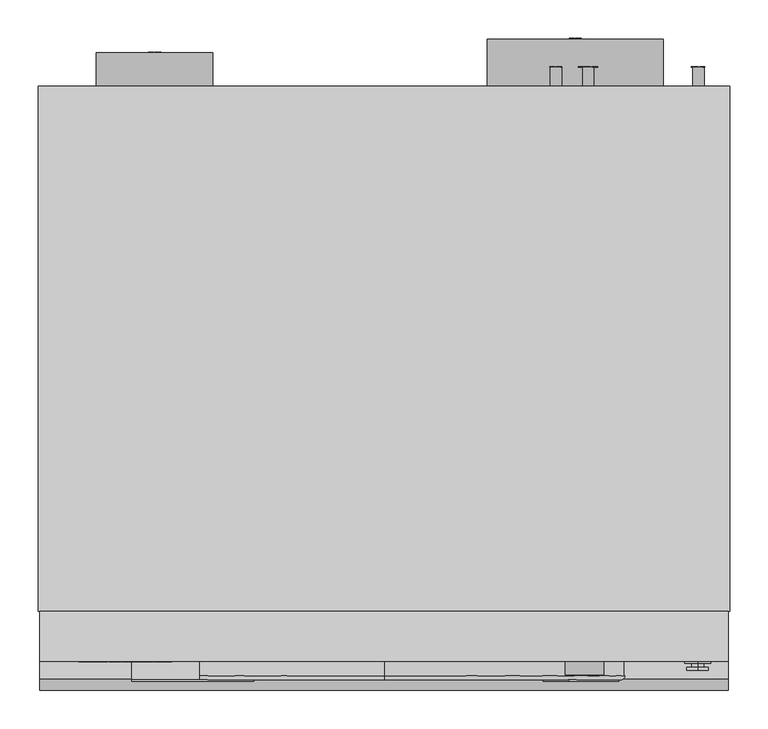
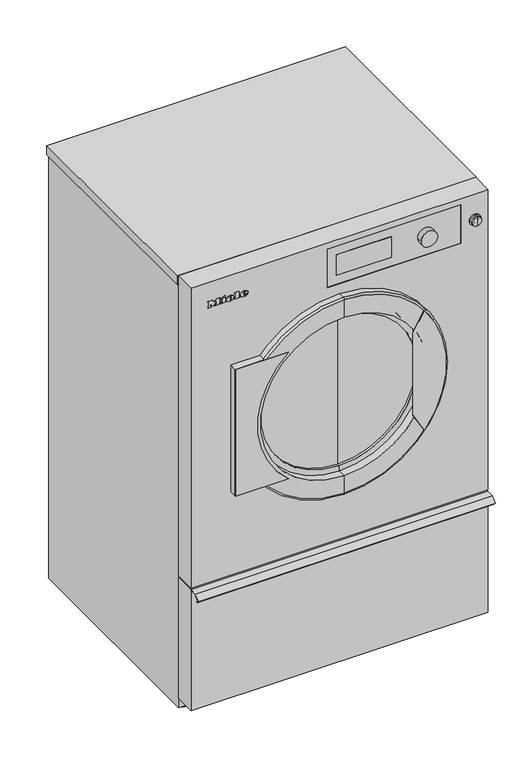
"""IFC4 building model written with IfcOpenShell, lengths in millimetres: proxy geometry, 11843380_SOM_PDR514ROPEL_IG : 52514011_SOM_11843380_PDR514ROPEL_IG."""

from ifc_helpers import new_model, si_unit, point, frame, frame_2d, origin, origin_with_axes, place, context, project, spatial, polyline, circle_curve, ellipse_curve, trimmed, segment, composite_curve, outline, extrude, faceted_brep, source, transform, mapped, element, save
from ifc_brep_helpers import plane_surface, cylinder_surface, revolved_surface, extruded_surface, advanced_brep


def specialty_equipment_eb223854(model_context):
    return source(origin(), model_context, "Body", "SolidModel", [
        advanced_brep(
        [(410.0, -814.0, 1302.0), (410.0, -814.0, 1336.0), (410.0, -814.0, 1319.0), (410.0, -817.0, 1302.0), (410.0, -817.0, 1336.0), (410.0, -817.0, 1311.0), (410.0, -817.0, 1327.0), (410.0, -822.0, 1311.0), (410.0, -822.0, 1327.0), (410.0, -822.0, 1305.0), (410.0, -822.0, 1333.0), (410.0, -826.0, 1305.0), (410.0, -826.0, 1333.0), (410.0, -826.0, 1319.0)],
        [
            (0, 1, circle_curve(frame((410.0, -814.0, 1319.0), z_axis=(0.0, 1.0, 0.0), x_axis=(0.0, 0.0, 1.0)), 17.0)),
            (1, 2),
            (2, 0),
            (1, 0, circle_curve(frame((410.0, -814.0, 1319.0), z_axis=(0.0, 1.0, 0.0), x_axis=(0.0, 0.0, 1.0)), 17.0)),
            (3, 4, circle_curve(frame((410.0, -817.0, 1319.0), z_axis=(0.0, 1.0, 0.0), x_axis=(0.0, 0.0, 1.0)), 17.0)),
            (4, 1),
            (0, 3),
            (4, 3, circle_curve(frame((410.0, -817.0, 1319.0), z_axis=(0.0, 1.0, 0.0), x_axis=(0.0, 0.0, 1.0)), 17.0)),
            (5, 6, circle_curve(frame((410.0, -817.0, 1319.0), z_axis=(0.0, 1.0, 0.0), x_axis=(0.0, 0.0, 1.0)), 8.0)),
            (6, 4),
            (3, 5),
            (6, 5, circle_curve(frame((410.0, -817.0, 1319.0), z_axis=(0.0, 1.0, 0.0), x_axis=(0.0, 0.0, 1.0)), 8.0)),
            (7, 8, circle_curve(frame((410.0, -822.0, 1319.0), z_axis=(0.0, 1.0, 0.0), x_axis=(0.0, 0.0, 1.0)), 8.0)),
            (8, 6),
            (5, 7),
            (8, 7, circle_curve(frame((410.0, -822.0, 1319.0), z_axis=(0.0, 1.0, 0.0), x_axis=(0.0, 0.0, 1.0)), 8.0)),
            (9, 10, circle_curve(frame((410.0, -822.0, 1319.0), z_axis=(0.0, 1.0, 0.0), x_axis=(0.0, 0.0, 1.0)), 14.0)),
            (10, 8),
            (7, 9),
            (10, 9, circle_curve(frame((410.0, -822.0, 1319.0), z_axis=(0.0, 1.0, 0.0), x_axis=(0.0, 0.0, 1.0)), 14.0)),
            (11, 12, circle_curve(frame((410.0, -826.0, 1319.0), z_axis=(0.0, 1.0, 0.0), x_axis=(0.0, 0.0, 1.0)), 14.0)),
            (12, 10),
            (9, 11),
            (12, 11, circle_curve(frame((410.0, -826.0, 1319.0), z_axis=(0.0, 1.0, 0.0), x_axis=(0.0, 0.0, 1.0)), 14.0)),
            (13, 12),
            (11, 13),
        ],
        [
            plane_surface(frame((410.0, -814.0, 1319.0), z_axis=(0.0, 1.0, 0.0), x_axis=(0.0, 0.0, 1.0))),
            cylinder_surface(frame((410.0, -814.0, 1319.0), z_axis=(0.0, -1.0, 0.0), x_axis=(0.0, 0.0, 1.0)), 17.0),
            plane_surface(frame((410.0, -817.0, 1319.0), z_axis=(0.0, -1.0, 0.0), x_axis=(0.0, 0.0, 1.0))),
            cylinder_surface(frame((410.0, -814.0, 1319.0), z_axis=(0.0, -1.0, 0.0), x_axis=(0.0, 0.0, 1.0)), 8.0),
            plane_surface(frame((410.0, -822.0, 1319.0), z_axis=(0.0, 1.0, 0.0), x_axis=(0.0, 0.0, 1.0))),
            cylinder_surface(frame((410.0, -814.0, 1319.0), z_axis=(0.0, -1.0, 0.0), x_axis=(0.0, 0.0, 1.0)), 14.0),
            plane_surface(frame((410.0, -826.0, 1319.0), z_axis=(0.0, -1.0, 0.0), x_axis=(0.0, 0.0, 1.0))),
        ],
        [
            (0, [[1, 2, 3]]),
            (0, [[4, -3, -2]]),
            (1, [[5, 6, -1, 7]]),
            (1, [[8, -7, -4, -6]]),
            (2, [[9, 10, -5, 11]]),
            (2, [[12, -11, -8, -10]]),
            (3, [[13, 14, -9, 15]]),
            (3, [[16, -15, -12, -14]]),
            (4, [[17, 18, -13, 19]]),
            (4, [[20, -19, -16, -18]]),
            (5, [[21, 22, -17, 23]]),
            (5, [[24, -23, -20, -22]]),
            (6, [[25, -21, 26]]),
            (6, [[-26, -24, -25]]),
        ],
    ),
        extrude(outline(composite_curve([segment(trimmed(circle_curve(frame_2d((1319.0, 262.0)), 25.0), [point((1319.0, 287.0))], [point((1319.0, 237.0))], False, "CARTESIAN"), True, "CONTINUOUS"), segment(trimmed(circle_curve(frame_2d((1319.0, 262.0)), 25.0), [point((1319.0, 237.0))], [point((1319.0, 287.0))], False, "CARTESIAN"), True, "CONTINUOUS")], self_intersect=False)), frame((0.0, -832.0, 0.0), z_axis=(0.0, 1.0, 0.0), x_axis=(0.0, 0.0, 1.0)), (0.0, 0.0, 1.0), 19.0),
        extrude(outline(polyline([(-9.0, -813.0), (157.0, -813.0), (157.0, -814.0), (-9.0, -814.0), (-9.0, -813.0)])), frame((0.0, 0.0, 1286.0), z_axis=(0.0, 0.0, 1.0), x_axis=(1.0, 0.0, 0.0)), (0.0, 0.0, 1.0), 66.0),
        extrude(outline(polyline([(-814.0, 435.0), (-814.0, 434.0), (-836.5857864, 434.0), (-850.6380903, 419.9476961), (-844.7136039, 413.0357953), (-845.4728605, 412.3850039), (-852.0, 420.0), (-837.0, 435.0), (-814.0, 435.0)])), frame((-450.0, 0.0, 0.0), z_axis=(1.0, 0.0, 0.0), x_axis=(0.0, 1.0, 0.0)), (0.0, 0.0, 1.0), 900.0),
        advanced_brep(
        [(450.0, -814.0, 1400.0), (-450.0, -814.0, 1400.0), (-450.0, -814.0, 440.0), (450.0, -814.0, 440.0), (283.0, -814.0, 910.0), (-283.0, -814.0, 910.0), (367.0, -814.0, 1380.0), (367.0, -814.0, 1257.0), (-37.0, -814.0, 1257.0), (-37.0, -814.0, 1380.0), (-450.0, -749.0, 1400.0), (450.0, -749.0, 1400.0), (450.0, -749.0, 440.0), (-450.0, -749.0, 440.0), (-283.0, -749.0, 910.0), (283.0, -749.0, 910.0), (367.0, -813.0, 1380.0), (-37.0, -813.0, 1380.0), (-37.0, -813.0, 1257.0), (367.0, -813.0, 1257.0)],
        [
            (0, 1),
            (1, 2),
            (2, 3),
            (3, 0),
            (4, 5, circle_curve(frame((0.0, -814.0, 910.0), z_axis=(0.0, 1.0, 0.0), x_axis=(-1.0, 0.0, 0.0)), 283.0)),
            (5, 4, circle_curve(frame((0.0, -814.0, 910.0), z_axis=(0.0, 1.0, 0.0), x_axis=(-1.0, 0.0, 0.0)), 283.0)),
            (6, 7),
            (7, 8),
            (8, 9),
            (9, 6),
            (10, 11),
            (11, 12),
            (12, 13),
            (13, 10),
            (14, 15, circle_curve(frame((0.0, -749.0, 910.0), z_axis=(0.0, -1.0, 0.0), x_axis=(-1.0, 0.0, 0.0)), 283.0)),
            (15, 14, circle_curve(frame((0.0, -749.0, 910.0), z_axis=(0.0, -1.0, 0.0), x_axis=(-1.0, 0.0, 0.0)), 283.0)),
            (11, 0),
            (3, 12),
            (1, 10),
            (13, 2),
            (14, 5),
            (4, 15),
            (16, 17),
            (17, 18),
            (18, 19),
            (19, 16),
            (19, 7),
            (6, 16),
            (18, 8),
            (17, 9),
        ],
        [
            plane_surface(frame((450.0, -814.0, 1400.0), z_axis=(0.0, -1.0, 0.0), x_axis=(0.0, 0.0, 1.0))),
            plane_surface(frame((450.0, -749.0, 1400.0), z_axis=(0.0, 1.0, 0.0), x_axis=(0.0, 0.0, -1.0))),
            plane_surface(frame((450.0, -749.0, 1400.0), z_axis=(1.0, 0.0, 0.0), x_axis=(0.0, -1.0, 0.0))),
            plane_surface(frame((-450.0, -749.0, 48.0), z_axis=(-1.0, 0.0, 0.0), x_axis=(0.0, -1.0, 0.0))),
            plane_surface(frame((-450.0, -749.0, 1400.0), z_axis=(0.0, 0.0, 1.0), x_axis=(0.0, -1.0, 0.0))),
            revolved_surface(polyline([(-283.0, -749.0, 910.0), (-283.0, -814.0, 910.0)]), (0.0, -814.0, 910.0), (0.0, 1.0, 0.0)),
            plane_surface(frame((-450.0, -749.0, 440.0), z_axis=(0.0, 0.0, -1.0), x_axis=(-1.0, 0.0, 0.0))),
            plane_surface(frame((157.0, -813.0, 1352.0), z_axis=(0.0, -1.0, 0.0), x_axis=(0.0, 0.0, -1.0))),
            plane_surface(frame((367.0, -813.0, 1380.0), z_axis=(-1.0, 0.0, 0.0), x_axis=(0.0, -1.0, 0.0))),
            plane_surface(frame((367.0, -813.0, 1257.0), z_axis=(0.0, 0.0, 1.0), x_axis=(0.0, -1.0, 0.0))),
            plane_surface(frame((-37.0, -813.0, 1257.0), z_axis=(1.0, 0.0, 0.0), x_axis=(0.0, -1.0, 0.0))),
            plane_surface(frame((-37.0, -813.0, 1380.0), z_axis=(0.0, 0.0, -1.0), x_axis=(0.0, -1.0, 0.0))),
        ],
        [
            (0, [[1, 2, 3, 4], [5, 6], [7, 8, 9, 10]]),
            (1, [[11, 12, 13, 14], [15, 16]]),
            (2, [[17, -4, 18, -12]]),
            (3, [[19, -14, 20, -2]]),
            (4, [[-1, -17, -11, -19]]),
            (5, [[21, -5, 22, -15]]),
            (5, [[-21, -16, -22, -6]]),
            (6, [[-3, -20, -13, -18]]),
            (7, [[23, 24, 25, 26]]),
            (8, [[-26, 27, -7, 28]]),
            (9, [[-25, 29, -8, -27]]),
            (10, [[-24, 30, -9, -29]]),
            (11, [[-23, -28, -10, -30]]),
        ],
    ),
        faceted_brep([(-450.0, -814.0, 48.0), (450.0, -814.0, 48.0), (450.0, -814.0, 435.0), (-450.0, -814.0, 435.0), (450.0, -749.0, 48.0), (-450.0, -749.0, 48.0), (-450.0, -749.0, 435.0), (450.0, -749.0, 435.0)], [[[0, 1, 2, 3]], [[4, 5, 6, 7]], [[1, 4, 7, 2]], [[1, 0, 5, 4]], [[5, 0, 3, 6]], [[3, 2, 7, 6]]]),
        advanced_brep(
        [(-290.6, -815.0, 1323.74), (-290.6, -815.0, 1325.76), (-277.22, -815.0, 1325.76), (-300.5, -815.0, 1325.76), (-295.0, -815.0, 1319.0), (-277.56, -815.0, 1323.74), (-283.6, -815.0, 1323.74), (-288.36, -815.0, 1321.5), (-290.6, -815.0, 1328.32), (-290.6, -815.0, 1330.5), (-287.18, -815.0, 1330.5), (-287.18, -815.0, 1328.32), (-290.6, -814.0, 1323.74), (-288.36, -814.0, 1321.5), (-283.6, -814.0, 1323.74), (-277.56, -814.0, 1323.74), (-295.0, -814.0, 1319.0), (-300.5, -814.0, 1325.76), (-277.22, -814.0, 1325.76), (-290.6, -814.0, 1325.76), (-290.6, -814.0, 1328.32), (-287.18, -814.0, 1328.32), (-287.18, -814.0, 1330.5), (-290.6, -814.0, 1330.5)],
        [
            (0, 1),
            (1, 2),
            (2, 3, ellipse_curve(frame((-288.86, -815.0, 1325.76), z_axis=(0.0, -1.0, 0.0), x_axis=(-1.0, 0.0, 0.0)), 11.64, 9.62)),
            (3, 4, circle_curve(frame((-292.7598909, -815.0, 1326.44), z_axis=(0.0, -1.0, 0.0), x_axis=(0.0, 0.0, -1.0)), 7.7699221)),
            (4, 5, circle_curve(frame((-289.0930161, -815.0, 1331.72), z_axis=(0.0, -1.0, 0.0), x_axis=(0.0, 0.0, -1.0)), 14.0246518)),
            (5, 6),
            (6, 7, circle_curve(frame((-287.3823529, -815.0, 1325.6), z_axis=(0.0, 1.0, 0.0), x_axis=(0.0, 0.0, -1.0)), 4.2149488)),
            (7, 0, circle_curve(frame((-288.36, -815.0, 1323.74), z_axis=(0.0, 1.0, 0.0), x_axis=(0.0, 0.0, -1.0)), 2.24)),
            (8, 9),
            (9, 10, circle_curve(frame((-288.89, -815.0, 1330.5), z_axis=(0.0, 1.0, 0.0), x_axis=(0.0, 0.0, -1.0)), 1.71)),
            (10, 11),
            (11, 8),
            (12, 13, circle_curve(frame((-288.36, -814.0, 1323.74), z_axis=(0.0, -1.0, 0.0), x_axis=(0.0, 0.0, -1.0)), 2.24)),
            (13, 14, circle_curve(frame((-287.3823529, -814.0, 1325.6), z_axis=(0.0, -1.0, 0.0), x_axis=(0.0, 0.0, -1.0)), 4.2149488)),
            (14, 15),
            (15, 16, circle_curve(frame((-289.0930161, -814.0, 1331.72), z_axis=(0.0, 1.0, 0.0), x_axis=(0.0, 0.0, -1.0)), 14.0246518)),
            (16, 17, circle_curve(frame((-292.7598909, -814.0, 1326.44), z_axis=(0.0, 1.0, 0.0), x_axis=(0.0, 0.0, -1.0)), 7.7699221)),
            (17, 18, ellipse_curve(frame((-288.86, -814.0, 1325.76), z_axis=(0.0, 1.0, 0.0), x_axis=(-1.0, 0.0, 0.0)), 11.64, 9.62)),
            (18, 19),
            (19, 12),
            (20, 21),
            (21, 22),
            (22, 23, circle_curve(frame((-288.89, -814.0, 1330.5), z_axis=(0.0, -1.0, 0.0), x_axis=(0.0, 0.0, -1.0)), 1.71)),
            (23, 20),
            (0, 12),
            (19, 1),
            (18, 2),
            (5, 15),
            (14, 6),
            (17, 3),
            (13, 7),
            (16, 4),
            (8, 20),
            (23, 9),
            (22, 10),
            (21, 11),
        ],
        [
            plane_surface(frame((-290.6, -815.0, 1325.76), z_axis=(0.0, -1.0, 0.0), x_axis=(0.0, 0.0, 1.0))),
            plane_surface(frame((-290.6, -814.0, 1325.76), z_axis=(0.0, 1.0, 0.0), x_axis=(0.0, 0.0, -1.0))),
            plane_surface(frame((-290.6, -815.0, 1323.74), z_axis=(1.0, 0.0, 0.0), x_axis=(0.0, 1.0, 0.0))),
            plane_surface(frame((-290.6, -815.0, 1325.76), z_axis=(0.0, 0.0, -1.0), x_axis=(0.0, 1.0, 0.0))),
            plane_surface(frame((-277.56, -815.0, 1323.74), z_axis=(0.0, 0.0, 1.0), x_axis=(0.0, 1.0, 0.0))),
            extruded_surface(trimmed(ellipse_curve(frame((-288.86, -813.0, 1325.76), z_axis=(0.0, -1.0, 0.0), x_axis=(-1.0, 0.0, 0.0)), 11.64, 9.62), [point((-277.22, -813.0, 1325.76))], [point((-300.5, -813.0, 1325.76))], True, "CARTESIAN"), (0.0, -1.0, 0.0), 1.0),
            revolved_surface(polyline([(-287.3823529, -814.0, 1321.3850512), (-287.3823529, -815.0, 1321.3850512)]), (-287.3823529, -814.0, 1325.6), (0.0, 1.0, 0.0)),
            revolved_surface(polyline([(-288.36, -814.0, 1321.5), (-288.36, -815.0, 1321.5)]), (-288.36, -814.0, 1323.74), (0.0, 1.0, 0.0)),
            cylinder_surface(frame((-292.7598909, -814.0, 1326.44), z_axis=(0.0, -1.0, 0.0), x_axis=(0.0, 0.0, -1.0)), 7.7699221),
            cylinder_surface(frame((-289.0930161, -814.0, 1331.72), z_axis=(0.0, -1.0, 0.0), x_axis=(0.0, 0.0, -1.0)), 14.0246518),
            plane_surface(frame((-290.6, -815.0, 1328.32), z_axis=(1.0, 0.0, 0.0), x_axis=(0.0, 1.0, 0.0))),
            revolved_surface(polyline([(-288.89, -814.0, 1328.79), (-288.89, -815.0, 1328.79)]), (-288.89, -814.0, 1330.5), (0.0, 1.0, 0.0)),
            plane_surface(frame((-287.18, -815.0, 1330.5), z_axis=(-1.0, 0.0, 0.0), x_axis=(0.0, 1.0, 0.0))),
            plane_surface(frame((-287.18, -815.0, 1328.32), z_axis=(0.0, 0.0, 1.0), x_axis=(0.0, 1.0, 0.0))),
        ],
        [
            (0, [[1, 2, 3, 4, 5, 6, 7, 8], [9, 10, 11, 12]]),
            (1, [[13, 14, 15, 16, 17, 18, 19, 20], [21, 22, 23, 24]]),
            (2, [[-1, 25, -20, 26]]),
            (3, [[-2, -26, -19, 27]]),
            (4, [[-6, 28, -15, 29]]),
            (5, [[-3, -27, -18, 30]]),
            (6, [[-7, -29, -14, 31]]),
            (7, [[-8, -31, -13, -25]]),
            (8, [[-4, -30, -17, 32]]),
            (9, [[-5, -32, -16, -28]]),
            (10, [[-9, 33, -24, 34]]),
            (11, [[-10, -34, -23, 35]]),
            (12, [[-11, -35, -22, 36]]),
            (13, [[-12, -36, -21, -33]]),
        ],
    ),
        advanced_brep(
        [(-332.34, -815.0, 1323.74), (-332.34, -815.0, 1325.76), (-318.96, -815.0, 1325.76), (-342.24, -815.0, 1325.76), (-336.74, -815.0, 1319.0), (-319.3, -815.0, 1323.74), (-325.34, -815.0, 1323.74), (-330.1, -815.0, 1321.5), (-332.34, -815.0, 1328.32), (-332.34, -815.0, 1330.5), (-328.92, -815.0, 1330.5), (-328.92, -815.0, 1328.32), (-332.34, -814.0, 1323.74), (-330.1, -814.0, 1321.5), (-325.34, -814.0, 1323.74), (-319.3, -814.0, 1323.74), (-336.74, -814.0, 1319.0), (-342.24, -814.0, 1325.76), (-318.96, -814.0, 1325.76), (-332.34, -814.0, 1325.76), (-332.34, -814.0, 1328.32), (-328.92, -814.0, 1328.32), (-328.92, -814.0, 1330.5), (-332.34, -814.0, 1330.5)],
        [
            (0, 1),
            (1, 2),
            (2, 3, ellipse_curve(frame((-330.6, -815.0, 1325.76), z_axis=(0.0, -1.0, 0.0), x_axis=(-1.0, 0.0, 0.0)), 11.64, 9.62)),
            (3, 4, circle_curve(frame((-334.4998909, -815.0, 1326.44), z_axis=(0.0, -1.0, 0.0), x_axis=(0.0, 0.0, -1.0)), 7.7699221)),
            (4, 5, circle_curve(frame((-330.8330161, -815.0, 1331.72), z_axis=(0.0, -1.0, 0.0), x_axis=(0.0, 0.0, -1.0)), 14.0246518)),
            (5, 6),
            (6, 7, circle_curve(frame((-329.1223529, -815.0, 1325.6), z_axis=(0.0, 1.0, 0.0), x_axis=(0.0, 0.0, -1.0)), 4.2149488)),
            (7, 0, circle_curve(frame((-330.1, -815.0, 1323.74), z_axis=(0.0, 1.0, 0.0), x_axis=(0.0, 0.0, -1.0)), 2.24)),
            (8, 9),
            (9, 10, circle_curve(frame((-330.63, -815.0, 1330.5), z_axis=(0.0, 1.0, 0.0), x_axis=(0.0, 0.0, -1.0)), 1.71)),
            (10, 11),
            (11, 8),
            (12, 13, circle_curve(frame((-330.1, -814.0, 1323.74), z_axis=(0.0, -1.0, 0.0), x_axis=(0.0, 0.0, -1.0)), 2.24)),
            (13, 14, circle_curve(frame((-329.1223529, -814.0, 1325.6), z_axis=(0.0, -1.0, 0.0), x_axis=(0.0, 0.0, -1.0)), 4.2149488)),
            (14, 15),
            (15, 16, circle_curve(frame((-330.8330161, -814.0, 1331.72), z_axis=(0.0, 1.0, 0.0), x_axis=(0.0, 0.0, -1.0)), 14.0246518)),
            (16, 17, circle_curve(frame((-334.4998909, -814.0, 1326.44), z_axis=(0.0, 1.0, 0.0), x_axis=(0.0, 0.0, -1.0)), 7.7699221)),
            (17, 18, ellipse_curve(frame((-330.6, -814.0, 1325.76), z_axis=(0.0, 1.0, 0.0), x_axis=(-1.0, 0.0, 0.0)), 11.64, 9.62)),
            (18, 19),
            (19, 12),
            (20, 21),
            (21, 22),
            (22, 23, circle_curve(frame((-330.63, -814.0, 1330.5), z_axis=(0.0, -1.0, 0.0), x_axis=(0.0, 0.0, -1.0)), 1.71)),
            (23, 20),
            (0, 12),
            (19, 1),
            (18, 2),
            (5, 15),
            (14, 6),
            (17, 3),
            (13, 7),
            (16, 4),
            (8, 20),
            (23, 9),
            (22, 10),
            (21, 11),
        ],
        [
            plane_surface(frame((-332.34, -815.0, 1325.76), z_axis=(0.0, -1.0, 0.0), x_axis=(0.0, 0.0, 1.0))),
            plane_surface(frame((-332.34, -814.0, 1325.76), z_axis=(0.0, 1.0, 0.0), x_axis=(0.0, 0.0, -1.0))),
            plane_surface(frame((-332.34, -815.0, 1323.74), z_axis=(1.0, 0.0, 0.0), x_axis=(0.0, 1.0, 0.0))),
            plane_surface(frame((-332.34, -815.0, 1325.76), z_axis=(0.0, 0.0, -1.0), x_axis=(0.0, 1.0, 0.0))),
            plane_surface(frame((-319.3, -815.0, 1323.74), z_axis=(0.0, 0.0, 1.0), x_axis=(0.0, 1.0, 0.0))),
            extruded_surface(trimmed(ellipse_curve(frame((-330.6, -813.0, 1325.76), z_axis=(0.0, -1.0, 0.0), x_axis=(-1.0, 0.0, 0.0)), 11.64, 9.62), [point((-318.96, -813.0, 1325.76))], [point((-342.24, -813.0, 1325.76))], True, "CARTESIAN"), (0.0, -1.0, 0.0), 1.0),
            revolved_surface(polyline([(-329.1223529, -814.0, 1321.3850512), (-329.1223529, -815.0, 1321.3850512)]), (-329.1223529, -814.0, 1325.6), (0.0, 1.0, 0.0)),
            revolved_surface(polyline([(-330.1, -814.0, 1321.5), (-330.1, -815.0, 1321.5)]), (-330.1, -814.0, 1323.74), (0.0, 1.0, 0.0)),
            cylinder_surface(frame((-334.4998909, -814.0, 1326.44), z_axis=(0.0, -1.0, 0.0), x_axis=(0.0, 0.0, -1.0)), 7.7699221),
            cylinder_surface(frame((-330.8330161, -814.0, 1331.72), z_axis=(0.0, -1.0, 0.0), x_axis=(0.0, 0.0, -1.0)), 14.0246518),
            plane_surface(frame((-332.34, -815.0, 1328.32), z_axis=(1.0, 0.0, 0.0), x_axis=(0.0, 1.0, 0.0))),
            revolved_surface(polyline([(-330.63, -814.0, 1328.79), (-330.63, -815.0, 1328.79)]), (-330.63, -814.0, 1330.5), (0.0, 1.0, 0.0)),
            plane_surface(frame((-328.92, -815.0, 1330.5), z_axis=(-1.0, 0.0, 0.0), x_axis=(0.0, 1.0, 0.0))),
            plane_surface(frame((-328.92, -815.0, 1328.32), z_axis=(0.0, 0.0, 1.0), x_axis=(0.0, 1.0, 0.0))),
        ],
        [
            (0, [[1, 2, 3, 4, 5, 6, 7, 8], [9, 10, 11, 12]]),
            (1, [[13, 14, 15, 16, 17, 18, 19, 20], [21, 22, 23, 24]]),
            (2, [[-1, 25, -20, 26]]),
            (3, [[-2, -26, -19, 27]]),
            (4, [[-6, 28, -15, 29]]),
            (5, [[-3, -27, -18, 30]]),
            (6, [[-7, -29, -14, 31]]),
            (7, [[-8, -31, -13, -25]]),
            (8, [[-4, -30, -17, 32]]),
            (9, [[-5, -32, -16, -28]]),
            (10, [[-9, 33, -24, 34]]),
            (11, [[-10, -34, -23, 35]]),
            (12, [[-11, -35, -22, 36]]),
            (13, [[-12, -36, -21, -33]]),
        ],
    ),
        extrude(outline(polyline([(1337.82, -354.2), (1334.58, -352.68), (1337.74, -345.9), (1340.98, -347.4), (1337.82, -354.2)])), frame((0.0, -815.0, 0.0), z_axis=(0.0, 1.0, 0.0), x_axis=(0.0, 0.0, 1.0)), (0.0, 0.0, 1.0), 1.0),
        extrude(outline(polyline([(1334.14, -359.14), (1330.56, -359.14), (1330.56, -356.76), (1322.36, -356.76), (1322.36, -359.14), (1319.0, -359.14), (1319.0, -343.36), (1322.36, -343.36), (1322.36, -345.68), (1334.14, -345.68), (1334.14, -359.14)])), frame((0.0, -815.0, 0.0), z_axis=(0.0, 1.0, 0.0), x_axis=(0.0, 0.0, 1.0)), (0.0, 0.0, 1.0), 1.0),
        extrude(outline(polyline([(1335.74, -317.84), (1335.74, -315.44), (1322.36, -315.44), (1322.36, -317.84), (1319.0, -317.84), (1319.0, -301.62), (1322.36, -301.62), (1322.36, -304.08), (1339.0, -304.08), (1339.0, -317.84), (1335.74, -317.84)])), frame((0.0, -815.0, 0.0), z_axis=(0.0, 1.0, 0.0), x_axis=(0.0, 0.0, 1.0)), (0.0, 0.0, 1.0), 1.0),
        extrude(outline(polyline([(1335.74, -399.0), (1335.74, -396.58), (1322.36, -396.58), (1322.36, -399.0), (1319.0, -399.0), (1319.0, -390.2), (1322.36, -390.2), (1322.36, -392.6), (1330.7911247, -392.6), (1319.0, -383.66), (1331.3152223, -374.68), (1322.36, -374.68), (1322.36, -377.14), (1319.0, -377.14), (1319.0, -361.18), (1322.36, -361.18), (1322.36, -363.72), (1335.74, -363.72), (1335.74, -361.18), (1339.0, -361.18), (1339.0, -373.36), (1331.5, -379.2), (1339.0, -385.06), (1339.0, -399.0), (1335.74, -399.0)])), frame((0.0, -815.0, 0.0), z_axis=(0.0, 1.0, 0.0), x_axis=(0.0, 0.0, 1.0)), (0.0, 0.0, 1.0), 1.0),
        extrude(outline(composite_curve([segment(polyline([(1112.0, -169.976469), (1112.0, -330.0), (708.0, -330.0), (708.0, -169.976469)]), True, "CONTINUOUS"), segment(trimmed(circle_curve(frame_2d((910.0, 0.0)), 264.0), [point((708.0, -169.976469))], [point((1112.0, -169.976469))], True, "CARTESIAN"), True, "CONTINUOUS")], self_intersect=False)), frame((0.0, -840.0, 0.0), z_axis=(0.0, 1.0, 0.0), x_axis=(0.0, 0.0, 1.0)), (0.0, 0.0, 1.0), 2.0),
        extrude(outline(composite_curve([segment(trimmed(circle_curve(frame_2d((910.0, 0.0)), 308.0), [point((719.0, 241.6257437))], [point((1101.0, 241.6257437))], False, "CARTESIAN"), True, "CONTINUOUS"), segment(polyline([(1101.0, 241.6257437), (1042.7585035, 208.0), (777.2414965, 208.0), (719.0, 241.6257437)]), True, "CONTINUOUS")], self_intersect=False)), frame((0.0, -840.0, 0.0), z_axis=(0.0, 1.0, 0.0), x_axis=(0.0, 0.0, 1.0)), (0.0, 0.0, 1.0), 2.0),
        extrude(outline(composite_curve([segment(polyline([(708.0, -330.0), (708.0, -241.7043649)]), True, "CONTINUOUS"), segment(trimmed(circle_curve(frame_2d((910.0, 0.0)), 315.0), [point((708.0, -241.7043649))], [point((1112.0, -241.7043649))], True, "CARTESIAN"), True, "CONTINUOUS"), segment(polyline([(1112.0, -241.7043649), (1112.0, -330.0), (708.0, -330.0)]), True, "CONTINUOUS")], self_intersect=False)), frame((0.0, -838.0, 0.0), z_axis=(0.0, 1.0, 0.0), x_axis=(0.0, 0.0, 1.0)), (0.0, 0.0, 1.0), 24.0),
        advanced_brep(
        [(0.0, -812.0, 656.0), (0.0, -812.0, 1164.0), (0.0, -804.0, 1164.0), (0.0, -804.0, 656.0), (0.0, -812.0, 673.0), (0.0, -812.0, 1147.0), (0.0, -804.0, 673.0), (0.0, -804.0, 1147.0)],
        [
            (0, 1, circle_curve(frame((0.0, -812.0, 910.0), z_axis=(0.0, 1.0, 0.0), x_axis=(0.0, 0.0, 1.0)), 254.0)),
            (1, 2),
            (2, 3, circle_curve(frame((0.0, -804.0, 910.0), z_axis=(0.0, -1.0, 0.0), x_axis=(0.0, 0.0, 1.0)), 254.0)),
            (3, 0),
            (1, 0, circle_curve(frame((0.0, -812.0, 910.0), z_axis=(0.0, 1.0, 0.0), x_axis=(0.0, 0.0, 1.0)), 254.0)),
            (3, 2, circle_curve(frame((0.0, -804.0, 910.0), z_axis=(0.0, -1.0, 0.0), x_axis=(0.0, 0.0, 1.0)), 254.0)),
            (4, 5, circle_curve(frame((0.0, -812.0, 910.0), z_axis=(0.0, 1.0, 0.0), x_axis=(0.0, 0.0, 1.0)), 237.0)),
            (5, 1),
            (0, 4),
            (5, 4, circle_curve(frame((0.0, -812.0, 910.0), z_axis=(0.0, 1.0, 0.0), x_axis=(0.0, 0.0, 1.0)), 237.0)),
            (6, 7, circle_curve(frame((0.0, -804.0, 910.0), z_axis=(0.0, 1.0, 0.0), x_axis=(0.0, 0.0, 1.0)), 237.0)),
            (7, 5),
            (4, 6),
            (7, 6, circle_curve(frame((0.0, -804.0, 910.0), z_axis=(0.0, 1.0, 0.0), x_axis=(0.0, 0.0, 1.0)), 237.0)),
            (2, 7),
            (6, 3),
        ],
        [
            cylinder_surface(frame((0.0, -2242.7556811, 910.0), z_axis=(0.0, -1.0, 0.0), x_axis=(0.0, 0.0, 1.0)), 254.0),
            plane_surface(frame((0.0, -812.0, 910.0), z_axis=(0.0, -1.0, 0.0), x_axis=(0.0, 0.0, 1.0))),
            revolved_surface(polyline([(0.0, -812.0, 1147.0), (0.0, -804.0, 1147.0)]), (0.0, -2242.7556811, 910.0), (0.0, -1.0, 0.0)),
            plane_surface(frame((0.0, -804.0, 910.0), z_axis=(0.0, 1.0, 0.0), x_axis=(0.0, 0.0, 1.0))),
        ],
        [
            (0, [[1, 2, 3, 4]]),
            (0, [[5, -4, 6, -2]]),
            (1, [[7, 8, -1, 9]]),
            (1, [[10, -9, -5, -8]]),
            (2, [[11, 12, -7, 13]]),
            (2, [[14, -13, -10, -12]]),
            (3, [[-3, 15, -11, 16]]),
            (3, [[-6, -16, -14, -15]]),
        ],
    ),
        advanced_brep(
        [(0.0, -804.0, 910.0), (0.0, -804.0, 1164.0), (0.0, -804.0, 656.0), (0.0, -784.0, 656.0), (0.0, -784.0, 1164.0), (0.0, -784.0, 910.0)],
        [
            (0, 1),
            (1, 2, circle_curve(frame((0.0, -804.0, 910.0), z_axis=(0.0, -1.0, 0.0), x_axis=(0.0, 0.0, 1.0)), 254.0)),
            (2, 0),
            (2, 1, circle_curve(frame((0.0, -804.0, 910.0), z_axis=(0.0, -1.0, 0.0), x_axis=(0.0, 0.0, 1.0)), 254.0)),
            (3, 4, circle_curve(frame((0.0, -784.0, 910.0), z_axis=(0.0, 1.0, 0.0), x_axis=(0.0, 0.0, 1.0)), 254.0)),
            (4, 5),
            (5, 3),
            (4, 3, circle_curve(frame((0.0, -784.0, 910.0), z_axis=(0.0, 1.0, 0.0), x_axis=(0.0, 0.0, 1.0)), 254.0)),
            (1, 4),
            (3, 2),
        ],
        [
            plane_surface(frame((0.0, -804.0, 910.0), z_axis=(0.0, -1.0, 0.0), x_axis=(0.0, 0.0, 1.0))),
            plane_surface(frame((0.0, -784.0, 910.0), z_axis=(0.0, 1.0, 0.0), x_axis=(0.0, 0.0, 1.0))),
            cylinder_surface(frame((0.0, -2242.7556811, 910.0), z_axis=(0.0, -1.0, 0.0), x_axis=(0.0, 0.0, 1.0)), 254.0),
        ],
        [
            (0, [[1, 2, 3]]),
            (0, [[-3, 4, -1]]),
            (1, [[5, 6, 7]]),
            (1, [[8, -7, -6]]),
            (2, [[-2, 9, -5, 10]]),
            (2, [[-4, -10, -8, -9]]),
        ],
    ),
        advanced_brep(
        [(0.0, -833.0, 595.0), (0.0, -833.0, 1225.0), (0.0, -814.0, 1225.0), (0.0, -814.0, 595.0), (0.0, -838.0, 600.0), (0.0, -838.0, 1220.0), (0.0, -838.0, 656.0), (0.0, -838.0, 1164.0), (0.0, -784.0, 656.0), (0.0, -784.0, 1164.0), (0.0, -784.0, 640.9892297), (0.0, -784.0, 1179.0107703), (0.0, -814.0, 627.0), (0.0, -814.0, 1193.0)],
        [
            (0, 1, circle_curve(frame((0.0, -833.0, 910.0), z_axis=(0.0, 1.0, 0.0), x_axis=(0.0, 0.0, 1.0)), 315.0)),
            (1, 2),
            (2, 3, circle_curve(frame((0.0, -814.0, 910.0), z_axis=(0.0, -1.0, 0.0), x_axis=(0.0, 0.0, 1.0)), 315.0)),
            (3, 0),
            (1, 0, circle_curve(frame((0.0, -833.0, 910.0), z_axis=(0.0, 1.0, 0.0), x_axis=(0.0, 0.0, 1.0)), 315.0)),
            (3, 2, circle_curve(frame((0.0, -814.0, 910.0), z_axis=(0.0, -1.0, 0.0), x_axis=(0.0, 0.0, 1.0)), 315.0)),
            (4, 5, circle_curve(frame((0.0, -838.0, 910.0), z_axis=(0.0, 1.0, 0.0), x_axis=(0.0, 0.0, 1.0)), 310.0)),
            (5, 1, circle_curve(frame((0.0, -833.0, 1220.0), z_axis=(-1.0, 0.0, 0.0), x_axis=(0.0, 1.0, 0.0)), 5.0)),
            (0, 4, circle_curve(frame((0.0, -833.0, 600.0), z_axis=(-1.0, 0.0, 0.0), x_axis=(0.0, 1.0, 0.0)), 5.0)),
            (5, 4, circle_curve(frame((0.0, -838.0, 910.0), z_axis=(0.0, 1.0, 0.0), x_axis=(0.0, 0.0, 1.0)), 310.0)),
            (6, 7, circle_curve(frame((0.0, -838.0, 910.0), z_axis=(0.0, 1.0, 0.0), x_axis=(0.0, 0.0, 1.0)), 254.0)),
            (7, 5),
            (4, 6),
            (7, 6, circle_curve(frame((0.0, -838.0, 910.0), z_axis=(0.0, 1.0, 0.0), x_axis=(0.0, 0.0, 1.0)), 254.0)),
            (8, 9, circle_curve(frame((0.0, -784.0, 910.0), z_axis=(0.0, 1.0, 0.0), x_axis=(0.0, 0.0, 1.0)), 254.0)),
            (9, 7),
            (6, 8),
            (9, 8, circle_curve(frame((0.0, -784.0, 910.0), z_axis=(0.0, 1.0, 0.0), x_axis=(0.0, 0.0, 1.0)), 254.0)),
            (10, 11, circle_curve(frame((0.0, -784.0, 910.0), z_axis=(0.0, 1.0, 0.0), x_axis=(0.0, 0.0, 1.0)), 269.0107703)),
            (11, 9),
            (8, 10),
            (11, 10, circle_curve(frame((0.0, -784.0, 910.0), z_axis=(0.0, 1.0, 0.0), x_axis=(0.0, 0.0, 1.0)), 269.0107703)),
            (12, 13, circle_curve(frame((0.0, -814.0, 910.0), z_axis=(0.0, 1.0, 0.0), x_axis=(0.0, 0.0, 1.0)), 283.0)),
            (13, 11),
            (10, 12),
            (13, 12, circle_curve(frame((0.0, -814.0, 910.0), z_axis=(0.0, 1.0, 0.0), x_axis=(0.0, 0.0, 1.0)), 283.0)),
            (2, 13),
            (12, 3),
        ],
        [
            cylinder_surface(frame((0.0, -2187.7556811, 910.0), z_axis=(0.0, -1.0, 0.0), x_axis=(0.0, 0.0, 1.0)), 315.0),
            revolved_surface(trimmed(ellipse_curve(frame((0.0, -833.0, 1220.0), z_axis=(1.0, 0.0, 0.0), x_axis=(0.0, 1.0, 0.0)), 5.0, 5.0), [point((0.0, -833.0, 1225.0))], [point((0.0, -838.0, 1220.0))], True, "CARTESIAN"), (0.0, -2187.7556811, 910.0), (0.0, -1.0, 0.0)),
            plane_surface(frame((0.0, -838.0, 910.0), z_axis=(0.0, -1.0, 0.0), x_axis=(0.0, 0.0, 1.0))),
            revolved_surface(polyline([(0.0, -838.0, 1164.0), (0.0, -784.0, 1164.0)]), (0.0, -2187.7556811, 910.0), (0.0, -1.0, 0.0)),
            plane_surface(frame((0.0, -784.0, 910.0), z_axis=(0.0, 1.0, 0.0), x_axis=(0.0, 0.0, 1.0))),
            revolved_surface(polyline([(0.0, -784.0, 1179.0107703), (0.0, -814.0, 1193.0)]), (0.0, -2187.7556811, 910.0), (0.0, -1.0, 0.0)),
            plane_surface(frame((0.0, -814.0, 910.0), z_axis=(0.0, 1.0, 0.0), x_axis=(0.0, 0.0, 1.0))),
        ],
        [
            (0, [[1, 2, 3, 4]]),
            (0, [[5, -4, 6, -2]]),
            (1, [[7, 8, -1, 9]]),
            (1, [[10, -9, -5, -8]]),
            (2, [[11, 12, -7, 13]]),
            (2, [[14, -13, -10, -12]]),
            (3, [[15, 16, -11, 17]]),
            (3, [[18, -17, -14, -16]]),
            (4, [[19, 20, -15, 21]]),
            (4, [[22, -21, -18, -20]]),
            (5, [[23, 24, -19, 25]]),
            (5, [[26, -25, -22, -24]]),
            (6, [[-3, 27, -23, 28]]),
            (6, [[-6, -28, -26, -27]]),
        ],
    ),
        extrude(outline(composite_curve([segment(trimmed(circle_curve(frame_2d((1341.0, 225.0)), 7.5), [point((1341.0, 232.5))], [point((1341.0, 217.5))], False, "CARTESIAN"), True, "CONTINUOUS"), segment(trimmed(circle_curve(frame_2d((1341.0, 225.0)), 7.5), [point((1341.0, 217.5))], [point((1341.0, 232.5))], False, "CARTESIAN"), True, "CONTINUOUS")], self_intersect=False)), frame((0.0, -67.0, 0.0), z_axis=(0.0, 1.0, 0.0), x_axis=(0.0, 0.0, 1.0)), (0.0, 0.0, 1.0), 30.0),
        extrude(outline(composite_curve([segment(polyline([(30.0, 417.9170113), (30.0, 419.1620921), (40.0559489, 419.1620921), (40.0559489, 415.453394)]), True, "CONTINUOUS"), segment(trimmed(circle_curve(frame_2d((37.0741886, 415.453394)), 2.9817603), [point((40.0559489, 415.453394))], [point((34.0924283, 415.453394))], False, "CARTESIAN"), True, "CONTINUOUS"), segment(polyline([(34.0924283, 415.453394), (34.0924283, 417.9170113), (30.0, 417.9170113)]), True, "CONTINUOUS")], self_intersect=False), holes=[composite_curve([segment(polyline([(35.2383237, 417.9170113), (35.2383237, 415.0679492)]), True, "CONTINUOUS"), segment(trimmed(circle_curve(frame_2d((37.0536399, 415.0679492)), 1.8153163), [point((35.2383237, 415.0679492))], [point((38.8689562, 415.0679492))], True, "CARTESIAN"), True, "CONTINUOUS"), segment(polyline([(38.8689562, 415.0679492), (38.8689562, 417.9170113), (35.2383237, 417.9170113)]), True, "CONTINUOUS")], self_intersect=False)]), frame((0.0, -37.0, 0.0), z_axis=(0.0, 1.0, 0.0), x_axis=(0.0, 0.0, 1.0)), (0.0, 0.0, 1.0), 1.0),
        extrude(outline(polyline([(40.0480947, 407.0745188), (40.0480947, 405.9891006), (30.0, 401.9827579), (30.0, 403.3125422), (33.1377792, 404.4546004), (33.1377792, 408.5944446), (30.0, 409.7365028), (30.0, 411.0811065), (40.0480947, 407.0745188)]), holes=[polyline([(34.3904393, 408.127462), (34.3904393, 404.9161749), (38.8019088, 406.5218184), (34.3904393, 408.127462)])]), frame((0.0, -37.0, 0.0), z_axis=(0.0, 1.0, 0.0), x_axis=(0.0, 0.0, 1.0)), (0.0, 0.0, 1.0), 1.0),
        extrude(outline(composite_curve([segment(trimmed(circle_curve(frame_2d((35.0, 411.0)), 7.5), [point((35.0, 418.5))], [point((35.0, 403.5))], False, "CARTESIAN"), True, "CONTINUOUS"), segment(trimmed(circle_curve(frame_2d((35.0, 411.0)), 7.5), [point((35.0, 403.5))], [point((35.0, 418.5))], False, "CARTESIAN"), True, "CONTINUOUS")], self_intersect=False)), frame((0.0, -67.0, 0.0), z_axis=(0.0, 1.0, 0.0), x_axis=(0.0, 0.0, 1.0)), (0.0, 0.0, 1.0), 30.0),
        extrude(outline(polyline([(1156.5, 257.0), (1156.5, 285.0), (1181.5, 271.0), (1156.5, 257.0)]), holes=[polyline([(1173.5, 270.2030882), (1173.5, 271.6042015), (1165.5, 275.0), (1167.4089025, 270.7125348), (1161.6312546, 271.5245303), (1161.6312546, 272.7258559), (1159.5, 271.0), (1161.6312546, 268.8687454), (1161.6312546, 270.10588), (1169.5, 269.0), (1167.9074176, 272.5769985), (1173.5, 270.2030882)])]), frame((0.0, -67.0, 0.0), z_axis=(0.0, 1.0, 0.0), x_axis=(0.0, 0.0, 1.0)), (0.0, 0.0, 1.0), 2.0),
        extrude(outline(polyline([(121.0, -66.0), (421.0, -66.0), (421.0, -67.0), (121.0, -67.0), (121.0, -66.0)])), frame((0.0, 0.0, 1073.0), z_axis=(0.0, 0.0, 1.0), x_axis=(1.0, 0.0, 0.0)), (0.0, 0.0, 1.0), 192.0),
        extrude(outline(polyline([(1346.0713351, 268.4586146), (1337.2690686, 268.4586146), (1337.2690686, 263.5085348), (1336.0, 263.5085348), (1336.0, 269.7337077), (1346.0713351, 269.7337077), (1346.0713351, 268.4586146)])), frame((0.0, -37.0, 0.0), z_axis=(0.0, 1.0, 0.0), x_axis=(0.0, 0.0, 1.0)), (0.0, 0.0, 1.0), 1.0),
        extrude(outline(polyline([(1346.0433, 259.2153208), (1346.0433, 258.1378525), (1336.0, 254.1189779), (1336.0, 255.4639242), (1339.1372946, 256.6205263), (1339.1372946, 260.7554837), (1336.0, 261.8973656), (1336.0, 263.2337583), (1346.0433, 259.2153208)]), holes=[polyline([(1340.4013402, 257.0865322), (1344.781267, 258.7012458), (1340.4013402, 260.2954088), (1340.4013402, 257.0865322)])]), frame((0.0, -37.0, 0.0), z_axis=(0.0, 1.0, 0.0), x_axis=(0.0, 0.0, 1.0)), (0.0, 0.0, 1.0), 1.0),
        extrude(outline(composite_curve([segment(polyline([(1339.470785, 279.4938385), (1339.470785, 278.2179676), (1338.1559037, 277.8656462)]), True, "CONTINUOUS"), segment(trimmed(circle_curve(frame_2d((1341.4593234, 275.1115013)), 4.300918), [point((1338.1559037, 277.8656462))], [point((1337.3250156, 273.9260076))], True, "CARTESIAN"), True, "CONTINUOUS"), segment(trimmed(circle_curve(frame_2d((1338.734987, 274.3303104)), 1.4667925), [point((1337.3250156, 273.9260076))], [point((1340.1449584, 273.9260076))], True, "CARTESIAN"), True, "CONTINUOUS"), segment(polyline([(1340.1449584, 273.9260076), (1341.231171, 277.7140811)]), True, "CONTINUOUS"), segment(trimmed(circle_curve(frame_2d((1343.4909936, 276.5518818)), 2.5411622), [point((1341.231171, 277.7140811))], [point((1345.8538919, 277.4868775))], False, "CARTESIAN"), True, "CONTINUOUS"), segment(trimmed(circle_curve(frame_2d((1341.351263, 275.7051933)), 4.8423203), [point((1345.8538919, 277.4868775))], [point((1344.7883856, 272.294291))], False, "CARTESIAN"), True, "CONTINUOUS"), segment(polyline([(1344.7883856, 272.294291), (1343.2342092, 271.7893085), (1343.2342092, 273.0353588), (1344.5078172, 273.7125482)]), True, "CONTINUOUS"), segment(trimmed(circle_curve(frame_2d((1340.9138581, 275.5385426)), 4.0312278), [point((1344.5078172, 273.7125482))], [point((1344.5078172, 277.364537))], True, "CARTESIAN"), True, "CONTINUOUS"), segment(trimmed(circle_curve(frame_2d((1343.5174829, 276.8613747)), 1.110826), [point((1344.5078172, 277.364537))], [point((1342.5271485, 277.364537))], True, "CARTESIAN"), True, "CONTINUOUS"), segment(polyline([(1342.5271485, 277.364537), (1341.2661255, 273.2399165)]), True, "CONTINUOUS"), segment(trimmed(circle_curve(frame_2d((1338.8062734, 274.4332402)), 2.7340252), [point((1341.2661255, 273.2399165))], [point((1336.2691713, 273.414414))], False, "CARTESIAN"), True, "CONTINUOUS"), segment(trimmed(circle_curve(frame_2d((1340.9175863, 275.2810818)), 5.0092125), [point((1336.2691713, 273.414414))], [point((1337.5341211, 278.974911))], False, "CARTESIAN"), True, "CONTINUOUS"), segment(polyline([(1337.5341211, 278.974911), (1339.470785, 279.4938385)]), True, "CONTINUOUS")], self_intersect=False)), frame((0.0, -37.0, 0.0), z_axis=(0.0, 1.0, 0.0), x_axis=(0.0, 0.0, 1.0)), (0.0, 0.0, 1.0), 1.0),
        extrude(outline(composite_curve([segment(trimmed(circle_curve(frame_2d((1341.0, 267.0)), 7.5), [point((1341.0, 274.5))], [point((1341.0, 259.5))], False, "CARTESIAN"), True, "CONTINUOUS"), segment(trimmed(circle_curve(frame_2d((1341.0, 267.0)), 7.5), [point((1341.0, 259.5))], [point((1341.0, 274.5))], False, "CARTESIAN"), True, "CONTINUOUS")], self_intersect=False)), frame((0.0, -67.0, 0.0), z_axis=(0.0, 1.0, 0.0), x_axis=(0.0, 0.0, 1.0)), (0.0, 0.0, 1.0), 30.0),
        extrude(outline(polyline([(1344.7785937, 225.1830535), (1344.7785937, 231.1302613), (1341.8114328, 231.1302613), (1341.8114328, 225.4649743), (1340.5394813, 225.4649743), (1340.5394813, 231.1302613), (1337.2586296, 231.1302613), (1337.2586296, 225.0), (1336.0, 225.0), (1336.0, 232.3864142), (1346.048592, 232.3864142), (1346.048592, 225.1830535), (1344.7785937, 225.1830535)])), frame((0.0, -37.0, 0.0), z_axis=(0.0, 1.0, 0.0), x_axis=(0.0, 0.0, 1.0)), (0.0, 0.0, 1.0), 1.0),
        extrude(outline(polyline([(1346.0378903, 221.8770486), (1337.2773599, 221.8770486), (1337.2773599, 216.8505836), (1336.0, 216.8505836), (1336.0, 223.1214049), (1346.0378903, 223.1214049), (1346.0378903, 221.8770486)])), frame((0.0, -37.0, 0.0), z_axis=(0.0, 1.0, 0.0), x_axis=(0.0, 0.0, 1.0)), (0.0, 0.0, 1.0), 1.0),
        extrude(outline(polyline([(122.9999165, -291.4555357), (133.0528112, -295.4635728), (133.0528112, -296.5356667), (123.0, -300.5447895), (123.0, -299.2103806), (126.1437098, -298.0661639), (126.1437098, -293.9273707), (122.9999165, -292.7831236), (122.9999165, -291.4555357)]), holes=[polyline([(127.4356526, -294.3687789), (127.4356526, -297.6012165), (131.9012546, -295.9941251), (127.4356526, -294.3687789)])]), frame((0.0, -18.0, 0.0), z_axis=(0.0, 1.0, 0.0), x_axis=(0.0, 0.0, 1.0)), (0.0, 0.0, 1.0), 1.0),
        extrude(outline(polyline([(123.0, -301.877563), (133.0496585, -301.877563), (133.0496585, -303.1806934), (124.275504, -303.1806934), (124.275504, -308.1806934), (123.0, -308.1806934), (123.0, -301.877563)])), frame((0.0, -18.0, 0.0), z_axis=(0.0, 1.0, 0.0), x_axis=(0.0, 0.0, 1.0)), (0.0, 0.0, 1.0), 1.0),
        extrude(outline(composite_curve([segment(trimmed(circle_curve(frame_2d((128.0, -300.0)), 76.0), [point((128.0, -224.0))], [point((128.0, -376.0))], False, "CARTESIAN"), True, "CONTINUOUS"), segment(trimmed(circle_curve(frame_2d((128.0, -300.0)), 76.0), [point((128.0, -376.0))], [point((128.0, -224.0))], False, "CARTESIAN"), True, "CONTINUOUS")], self_intersect=False)), frame((0.0, -67.0, 0.0), z_axis=(0.0, 1.0, 0.0), x_axis=(0.0, 0.0, 1.0)), (0.0, 0.0, 1.0), 49.0),
        extrude(outline(polyline([(308.7962767, 257.1350775), (310.0491429, 257.1350775), (310.0491429, 250.0840805), (308.7962767, 250.0840805), (301.2670444, 256.1811326), (301.2670444, 249.9029184), (300.0, 249.9029184), (300.0, 257.783487), (301.2670444, 257.783487), (308.7962767, 251.686435), (308.7962767, 257.1350775)])), frame((0.0, 0.0, 0.0), z_axis=(0.0, 1.0, 0.0), x_axis=(0.0, 0.0, 1.0)), (0.0, 0.0, 1.0), 1.0),
        extrude(outline(polyline([(300.0, 248.5052372), (310.0491429, 248.5052372), (310.0491429, 247.2673426), (301.2670444, 247.2673426), (301.2670444, 242.2673426), (300.0, 242.2673426), (300.0, 248.5052372)])), frame((0.0, 0.0, 0.0), z_axis=(0.0, 1.0, 0.0), x_axis=(0.0, 0.0, 1.0)), (0.0, 0.0, 1.0), 1.0),
        extrude(outline(composite_curve([segment(trimmed(circle_curve(frame_2d((305.0, 250.0)), 115.0), [point((305.0, 365.0))], [point((305.0, 135.0))], False, "CARTESIAN"), True, "CONTINUOUS"), segment(trimmed(circle_curve(frame_2d((305.0, 250.0)), 115.0), [point((305.0, 135.0))], [point((305.0, 365.0))], False, "CARTESIAN"), True, "CONTINUOUS")], self_intersect=False)), frame((0.0, -67.0, 0.0), z_axis=(0.0, 1.0, 0.0), x_axis=(0.0, 0.0, 1.0)), (0.0, 0.0, 1.0), 67.0),
        advanced_brep(
        [(450.0, -67.0, 1372.0), (-450.0, -67.0, 1372.0), (-450.0, -749.0, 1372.0), (450.0, -749.0, 1372.0), (450.0, -67.0, 18.0), (450.0, -749.0, 18.0), (-450.0, -749.0, 18.0), (-450.0, -67.0, 18.0), (426.0, -749.0, 910.0), (-426.0, -749.0, 910.0), (426.0, -285.0, 910.0), (-426.0, -285.0, 910.0)],
        [
            (0, 1),
            (1, 2),
            (2, 3),
            (3, 0),
            (4, 5),
            (5, 6),
            (6, 7),
            (7, 4),
            (0, 4),
            (7, 1),
            (6, 2),
            (5, 3),
            (8, 9, circle_curve(frame((0.0, -749.0, 910.0), z_axis=(0.0, 1.0, 0.0), x_axis=(-1.0, 0.0, 0.0)), 426.0)),
            (9, 8, circle_curve(frame((0.0, -749.0, 910.0), z_axis=(0.0, 1.0, 0.0), x_axis=(-1.0, 0.0, 0.0)), 426.0)),
            (10, 11, circle_curve(frame((0.0, -285.0, 910.0), z_axis=(0.0, -1.0, 0.0), x_axis=(-1.0, 0.0, 0.0)), 426.0)),
            (11, 10, circle_curve(frame((0.0, -285.0, 910.0), z_axis=(0.0, -1.0, 0.0), x_axis=(-1.0, 0.0, 0.0)), 426.0)),
            (11, 9),
            (8, 10),
        ],
        [
            plane_surface(frame((-450.0, -67.0, 1372.0), z_axis=(0.0, 0.0, 1.0), x_axis=(-1.0, 0.0, 0.0))),
            plane_surface(frame((-450.0, -67.0, 18.0), z_axis=(0.0, 0.0, -1.0), x_axis=(1.0, 0.0, 0.0))),
            plane_surface(frame((450.0, -67.0, 1372.0), z_axis=(0.0, 1.0, 0.0), x_axis=(0.0, 0.0, -1.0))),
            plane_surface(frame((-450.0, -67.0, 1372.0), z_axis=(-1.0, 0.0, 0.0), x_axis=(0.0, 0.0, -1.0))),
            plane_surface(frame((-450.0, -749.0, 1372.0), z_axis=(0.0, -1.0, 0.0), x_axis=(0.0, 0.0, -1.0))),
            plane_surface(frame((450.0, -749.0, 1372.0), z_axis=(1.0, 0.0, 0.0), x_axis=(0.0, 0.0, -1.0))),
            plane_surface(frame((-426.0, -285.0, 910.0), z_axis=(0.0, -1.0, 0.0), x_axis=(0.0, 0.0, 1.0))),
            revolved_surface(polyline([(-426.0, -285.0, 910.0), (-426.0, -749.0, 910.0)]), (0.0, -749.0, 910.0), (0.0, 1.0, 0.0)),
        ],
        [
            (0, [[1, 2, 3, 4]]),
            (1, [[5, 6, 7, 8]]),
            (2, [[-1, 9, -8, 10]]),
            (3, [[-2, -10, -7, 11]]),
            (4, [[-3, -11, -6, 12], [13, 14]]),
            (5, [[-4, -12, -5, -9]]),
            (6, [[15, 16]]),
            (7, [[-16, 17, -13, 18]]),
            (7, [[-15, -18, -14, -17]]),
        ],
    ),
        extrude(outline(composite_curve([segment(trimmed(circle_curve(frame_2d((-395.0, -109.0)), 20.0), [point((-375.0, -109.0))], [point((-415.0, -109.0))], False, "CARTESIAN"), True, "CONTINUOUS"), segment(trimmed(circle_curve(frame_2d((-395.0, -109.0)), 20.0), [point((-415.0, -109.0))], [point((-375.0, -109.0))], False, "CARTESIAN"), True, "CONTINUOUS")], self_intersect=False)), origin_with_axes(), (0.0, 0.0, 1.0), 18.0),
        extrude(outline(composite_curve([segment(trimmed(circle_curve(frame_2d((395.0, -109.0)), 20.0), [point((415.0, -109.0))], [point((375.0, -109.0))], False, "CARTESIAN"), True, "CONTINUOUS"), segment(trimmed(circle_curve(frame_2d((395.0, -109.0)), 20.0), [point((375.0, -109.0))], [point((415.0, -109.0))], False, "CARTESIAN"), True, "CONTINUOUS")], self_intersect=False)), origin_with_axes(), (0.0, 0.0, 1.0), 18.0),
        extrude(outline(composite_curve([segment(trimmed(circle_curve(frame_2d((-415.0, -711.0)), 20.0), [point((-395.0, -711.0))], [point((-435.0, -711.0))], False, "CARTESIAN"), True, "CONTINUOUS"), segment(trimmed(circle_curve(frame_2d((-415.0, -711.0)), 20.0), [point((-435.0, -711.0))], [point((-395.0, -711.0))], False, "CARTESIAN"), True, "CONTINUOUS")], self_intersect=False)), origin_with_axes(), (0.0, 0.0, 1.0), 18.0),
        extrude(outline(composite_curve([segment(trimmed(circle_curve(frame_2d((415.0, -711.0)), 20.0), [point((435.0, -711.0))], [point((395.0, -711.0))], False, "CARTESIAN"), True, "CONTINUOUS"), segment(trimmed(circle_curve(frame_2d((415.0, -711.0)), 20.0), [point((395.0, -711.0))], [point((435.0, -711.0))], False, "CARTESIAN"), True, "CONTINUOUS")], self_intersect=False)), origin_with_axes(), (0.0, 0.0, 1.0), 18.0),
        extrude(outline(polyline([(452.0, -62.0), (452.0, -749.0), (-452.0, -749.0), (-452.0, -62.0), (452.0, -62.0)])), frame((0.0, 0.0, 1372.0), z_axis=(0.0, 0.0, 1.0), x_axis=(1.0, 0.0, 0.0)), (0.0, 0.0, 1.0), 28.0),
    ])


if __name__ == "__main__":
    model = new_model("IFC4")
    model_context = context("Model", 3, world=origin())
    ifc_project = project(units=[si_unit("LENGTHUNIT", "METRE", prefix="MILLI")], contexts=[model_context])
    site = spatial("IfcSite", under=ifc_project)
    building = spatial("IfcBuilding", under=site)
    placement = place(None, origin())
    specialty_equipment_shape = specialty_equipment_eb223854(model_context)
    element("IfcBuildingElementProxy", 1, Name="11843380_SOM_PDR514ROPEL_IG : 52514011_SOM_11843380_PDR514ROPEL_IG", ObjectType="11843380_SOM_PDR514ROPEL_IG : 52514011_SOM_11843380_PDR514ROPEL_IG", at=placement, inside=building, context=model_context, shape_type="MappedRepresentation", body=[
        mapped(specialty_equipment_shape, transform((0.0, 0.0, 0.0), x_axis=(1.0, 0.0, 0.0), y_axis=(0.0, 1.0, 0.0), z_axis=(0.0, 0.0, 1.0))),
    ])
    save(model, "model.ifc")
